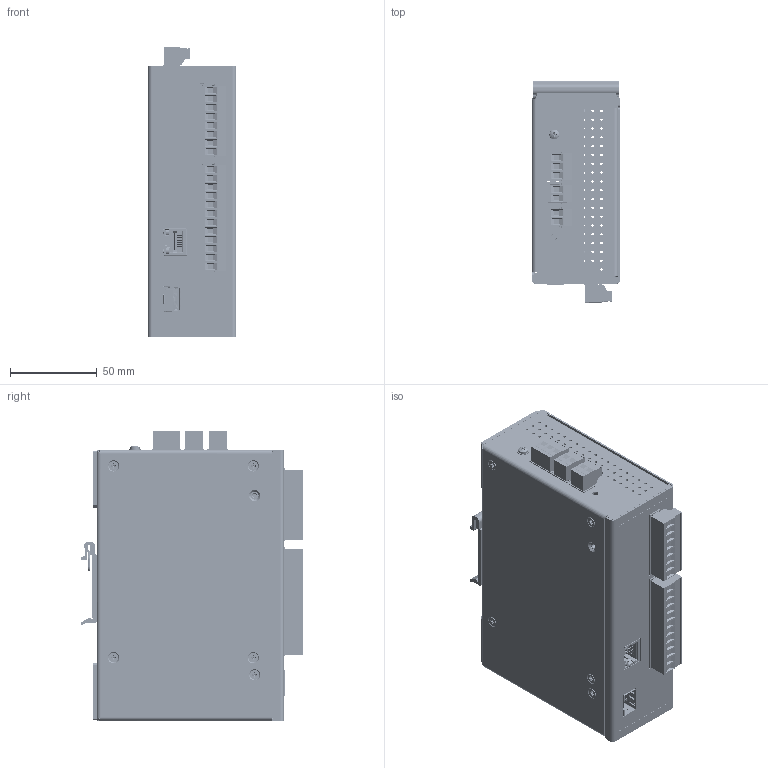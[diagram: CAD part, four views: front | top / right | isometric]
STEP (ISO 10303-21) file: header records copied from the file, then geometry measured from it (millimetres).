
FILE_DESCRIPTION(/* description */ ('STEP AP242','CAx-IF Rec.Pracs.---Representation and Presentation of Product Manufacturing Information (PMI)---4.0---2014-10-13','CAx-IF Rec.Pracs.---3D Tessellated Geometry---0.4---2014-09-14','2;1'),/* implementation_level */ '2;1');
FILE_NAME(/* name */ '67d9b4e63cfe657dc0270b5a',/* time_stamp */ '2025-03-18T18:01:19Z',/* author */ (''),/* organization */ (''),/* preprocessor_version */ 'ST-DEVELOPER v20',/* originating_system */ 'ONSHAPE BY PTC INC, 1.195',/* authorisation */ ' ');
FILE_SCHEMA (('AP242_MANAGED_MODEL_BASED_3D_ENGINEERING_MIM_LF { 1 0 10303 442 1 1 4 }'));
Products named in the file (49): SD-005; PH Pan head screw M3x0.50 x 3; 98952A007_Aluminum Male-Female Threaded Hex Standoff; PH Countersunk flat head screw M3x0.5 x 4; Pan head machine screw #4-40 x 0.375; 95947A054_Aluminum Female Threaded Hex Standoff; Front Label; PCB-029 - Rev C - UIO - Smart Series Mother Board <1>; C-796634-3; Part 1; C-796634-2; P4-64P-SHIELD; 10135584-644X0XLF; CUI_DEVICES_TBP01R1-508-02GR; CUI_DEVICES_TBP01R1-508-03GR; JXD0-0019NL_3D; Reset Switch; User Library-U77A1118X00X; PCB-012 - UIO - Daughter Board - CC BIDI <1>; R4-64P-SHIELD; PCB Board; 10135583-644X0XXX_R4-64PIN; C-1-796638-2; C-796638-8; 91757A101_18-8 Stainless Steel Internal-Tooth Lock Washer; AD-168 - Rev A - UIO Smart Series, 4 Channel Input, 4 Channel Output 
Housing <1>; PH Countersunk flat head screw M3x0.5 x 6; Wall Mount Ear; H-181 - Rev A - UIO Smart Series, Front Housing, 4 Channel Input & 4 
Channel Output <1>; Front Housing; PEM CLS-M3-1  ; Assembly 1 <1>; DIN; Part 2; H-178 - Rev A - UIO, Smart Series, Back Housing <1>; 94674A485_Flush-Mount Press-Fit Nut for Sheet Metal; H-178
Assembly tree (118 placements, depth 4):
  SD-005
    PH Pan head screw M3x0.50 x 3  x4
    98952A007_Aluminum Male-Female Threaded Hex Standoff  x4
    PH Countersunk flat head screw M3x0.5 x 4  x4
    Pan head machine screw #4-40 x 0.375
    95947A054_Aluminum Female Threaded Hex Standoff  x4
    Front Label
    PCB-029 - Rev C - UIO - Smart Series Mother Board <1>
      C-796634-3
      Part 1  x4
      C-796634-2  x2
      Part 1  x3
      P4-64P-SHIELD  x2
      10135584-644X0XLF  x2
      CUI_DEVICES_TBP01R1-508-02GR  x2
      CUI_DEVICES_TBP01R1-508-03GR
      Part 1
      JXD0-0019NL_3D
      JXD0-0019NL_3D
      JXD0-0019NL_3D
      JXD0-0019NL_3D
      Reset Switch
      User Library-U77A1118X00X
      User Library-U77A1118X00X
      User Library-U77A1118X00X
      User Library-U77A1118X00X
      User Library-U77A1118X00X
      User Library-U77A1118X00X
      User Library-U77A1118X00X
    PCB-012 - UIO - Daughter Board - CC BIDI <1>
      C-796634-2  x4
      Part 1  x8
      Part 1  x4
      R4-64P-SHIELD  x2
      C-796634-3  x4
      PCB Board
      10135583-644X0XXX_R4-64PIN  x2
      C-1-796638-2
      C-796638-8
    91757A101_18-8 Stainless Steel Internal-Tooth Lock Washer
    AD-168 - Rev A - UIO Smart Series, 4 Channel Input, 4 Channel Output 
Housing <1>
      PH Countersunk flat head screw M3x0.5 x 6  x7
      PH Countersunk flat head screw M3x0.5 x 4  x7
      Wall Mount Ear  x2
      H-181 - Rev A - UIO Smart Series, Front Housing, 4 Channel Input & 4 
Channel Output <1>
        Front Housing
        PEM CLS-M3-1    x2
      Assembly 1 <1>
        DIN
        Part 2
      H-178 - Rev A - UIO, Smart Series, Back Housing <1>
        PEM CLS-M3-1    x13
        94674A485_Flush-Mount Press-Fit Nut for Sheet Metal
        H-178
Bounding box: 50.8 x 127.56 x 166.86 mm (x, y, z)
Volume: 162870 mm3; surface area: 268719.7 mm2
Topology: 105 solids, 194 shells, 15466 faces, 42972 edges, 27901 vertices
Faces by surface type: plane 11761, cylinder 2733, cone 397, bspline 380, torus 170, sphere 25
Full cylindrical faces by diameter (mm): 0.7 x4, 0.94 x4, 1.1 x4, 1.2 x4, 1.27 x6, 1.4 x20, 1.587 x190, 2 x14, 2.345 x4, 2.459 x15, 2.5 x7, 2.845 x1, 3 x22, 3.175 x8, 3.2 x4, 3.4 x3, 3.505 x1, 3.569 x1, 4 x43, 4.039 x1, 4.093 x1, 4.2 x15, 4.22 x15, 5.5 x18, 5.563 x1, 5.6 x4, 6.35 x15, 6.858 x1, 7.62 x16
Entity records: 280700 total; most frequent: CARTESIAN_POINT 60956, ORIENTED_EDGE 46071, DIRECTION 41408, EDGE_CURVE 23082, LINE 18090, VECTOR 18090, VERTEX_POINT 15111, AXIS2_PLACEMENT_3D 11659
